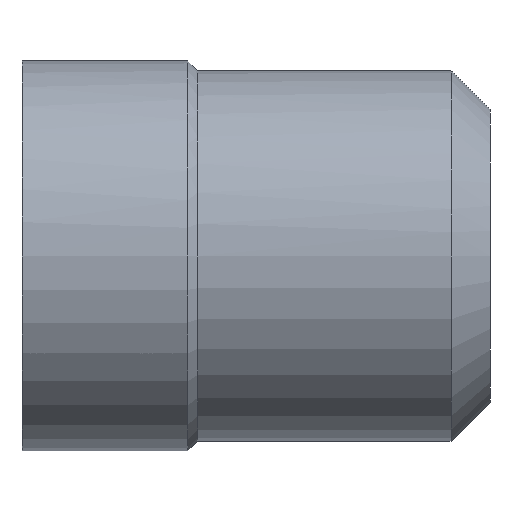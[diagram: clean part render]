
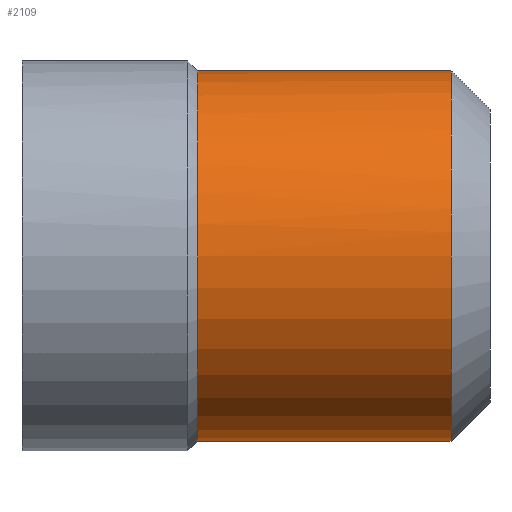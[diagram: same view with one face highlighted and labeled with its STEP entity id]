
A CAD part, front view. The second image highlights one B-rep face of the part: STEP entity #2109.
In plain terms, the highlighted cylindrical face has radius 4.75 mm (diameter 9.5 mm), a partial arc.
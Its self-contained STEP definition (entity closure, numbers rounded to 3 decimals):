
#1866=CARTESIAN_POINT('Vertex',(4.5,0.,4.75)) ;
#1880=CARTESIAN_POINT('Vertex',(4.5,0.,-4.75)) ;
#1902=CARTESIAN_POINT('Axis2P3D Location',(4.5,0.,0.)) ;
#1906=CARTESIAN_POINT('Vertex',(4.5,-4.75,0.)) ;
#1909=CARTESIAN_POINT('Axis2P3D Location',(4.5,0.,0.)) ;
#2043=CARTESIAN_POINT('Line Origine',(4.564,0.,-4.75)) ;
#2047=CARTESIAN_POINT('Vertex',(11.,0.,-4.75)) ;
#2050=CARTESIAN_POINT('Line Origine',(4.564,0.,4.75)) ;
#2054=CARTESIAN_POINT('Vertex',(11.,0.,4.75)) ;
#2081=CARTESIAN_POINT('Axis2P3D Location',(4.564,0.,0.)) ;
#2086=CARTESIAN_POINT('Axis2P3D Location',(11.,0.,0.)) ;
#2090=CARTESIAN_POINT('Vertex',(11.,-4.75,0.)) ;
#2094=CARTESIAN_POINT('Control Point',(11.,0.,4.75)) ;
#2095=CARTESIAN_POINT('Control Point',(11.,-1.492,4.75)) ;
#2096=CARTESIAN_POINT('Control Point',(11.,-2.986,4.166)) ;
#2097=CARTESIAN_POINT('Control Point',(11.,-4.166,2.986)) ;
#2098=CARTESIAN_POINT('Control Point',(11.,-4.75,1.492)) ;
#2099=CARTESIAN_POINT('Control Point',(11.,-4.75,0.)) ;
#1903=DIRECTION('Axis2P3D Direction',(-1.,0.,0.)) ;
#1910=DIRECTION('Axis2P3D Direction',(-1.,0.,0.)) ;
#2044=DIRECTION('Vector Direction',(-1.,0.,0.)) ;
#2051=DIRECTION('Vector Direction',(-1.,0.,0.)) ;
#2082=DIRECTION('Axis2P3D Direction',(-1.,-0.,-0.)) ;
#2083=DIRECTION('Axis2P3D XDirection',(0.,0.,-1.)) ;
#2087=DIRECTION('Axis2P3D Direction',(-1.,-0.,-0.)) ;
#1904=AXIS2_PLACEMENT_3D('Circle Axis2P3D',#1902,#1903,$) ;
#1911=AXIS2_PLACEMENT_3D('Circle Axis2P3D',#1909,#1910,$) ;
#2084=AXIS2_PLACEMENT_3D('Cylinder Axis2P3D',#2081,#2082,#2083) ;
#2088=AXIS2_PLACEMENT_3D('Circle Axis2P3D',#2086,#2087,$) ;
#2102=ORIENTED_EDGE('',*,*,#2056,.T.) ;
#2103=ORIENTED_EDGE('',*,*,#1913,.T.) ;
#2104=ORIENTED_EDGE('',*,*,#1908,.T.) ;
#2105=ORIENTED_EDGE('',*,*,#2049,.T.) ;
#2106=ORIENTED_EDGE('',*,*,#2092,.F.) ;
#2107=ORIENTED_EDGE('',*,*,#2100,.F.) ;
#2045=VECTOR('Line Direction',#2044,1.) ;
#2052=VECTOR('Line Direction',#2051,1.) ;
#2109=ADVANCED_FACE('MPC10',(#2108),#2085,.T.) ;
#2093=B_SPLINE_CURVE_WITH_KNOTS('',5,(#2094,#2095,#2096,#2097,#2098,#2099),.UNSPECIFIED.,.F.,.U.,(6,6),(-3.731,3.731),.UNSPECIFIED.) ;
#1905=CIRCLE('generated circle',#1904,4.75) ;
#1912=CIRCLE('generated circle',#1911,4.75) ;
#2089=CIRCLE('generated circle',#2088,4.75) ;
#2085=CYLINDRICAL_SURFACE('generated cylinder',#2084,4.75) ;
#1908=EDGE_CURVE('',#1907,#1881,#1905,.F.) ;
#1913=EDGE_CURVE('',#1867,#1907,#1912,.F.) ;
#2049=EDGE_CURVE('',#1881,#2048,#2046,.F.) ;
#2056=EDGE_CURVE('',#2055,#1867,#2053,.T.) ;
#2092=EDGE_CURVE('',#2091,#2048,#2089,.F.) ;
#2100=EDGE_CURVE('',#2055,#2091,#2093,.T.) ;
#2101=EDGE_LOOP('',(#2102,#2103,#2104,#2105,#2106,#2107)) ;
#2108=FACE_OUTER_BOUND('',#2101,.T.) ;
#2046=LINE('Line',#2043,#2045) ;
#2053=LINE('Line',#2050,#2052) ;
#1867=VERTEX_POINT('',#1866) ;
#1881=VERTEX_POINT('',#1880) ;
#1907=VERTEX_POINT('',#1906) ;
#2048=VERTEX_POINT('',#2047) ;
#2055=VERTEX_POINT('',#2054) ;
#2091=VERTEX_POINT('',#2090) ;
